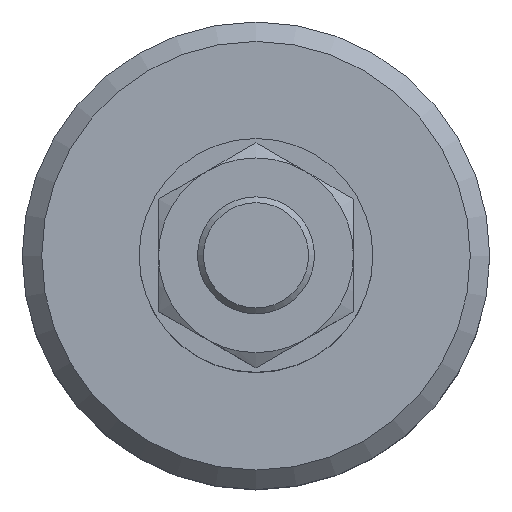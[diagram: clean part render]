
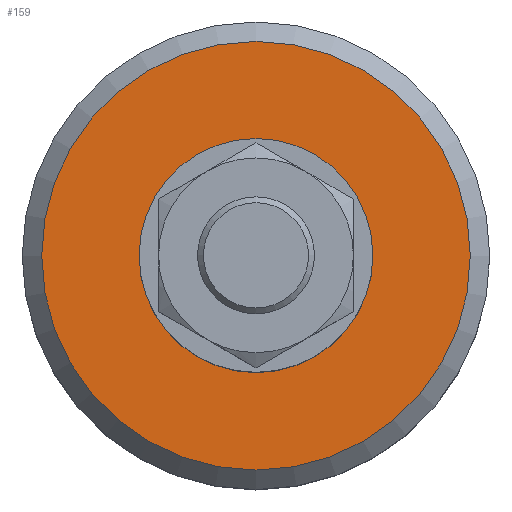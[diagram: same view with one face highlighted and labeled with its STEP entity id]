
A CAD part, top view. The second image highlights one B-rep face of the part: STEP entity #159.
In plain terms, the highlighted planar face has unit normal (0, 0, 1).
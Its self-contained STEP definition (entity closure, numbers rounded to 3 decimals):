
#128=CARTESIAN_POINT('',(0.,-11.0,7.25));
#129=VERTEX_POINT('',#128);
#130=CARTESIAN_POINT('',(0.0,0.0,7.25));
#131=DIRECTION('',(0.0,0.0,-1.0));
#132=DIRECTION('',(0.0,1.0,0.0));
#133=AXIS2_PLACEMENT_3D('',#130,#131,#132);
#134=CIRCLE('',#133,11.0);
#135=EDGE_CURVE('',#129,#129,#134,.T.);
#140=CARTESIAN_POINT('',(0.0,-3.,7.25));
#141=DIRECTION('',(0.0,0.0,1.0));
#142=DIRECTION('',(1.0,0.0,0.0));
#143=AXIS2_PLACEMENT_3D('',#140,#141,#142);
#144=PLANE('',#143);
#145=ORIENTED_EDGE('',*,*,#135,.F.);
#146=EDGE_LOOP('',(#145));
#147=FACE_OUTER_BOUND('',#146,.T.);
#148=CARTESIAN_POINT('',(0.0,-6.,7.25));
#149=VERTEX_POINT('',#148);
#150=CARTESIAN_POINT('',(0.0,0.0,7.25));
#151=DIRECTION('',(0.0,0.0,1.0));
#152=DIRECTION('',(0.0,-1.0,0.0));
#153=AXIS2_PLACEMENT_3D('',#150,#151,#152);
#154=CIRCLE('',#153,6.);
#155=EDGE_CURVE('',#149,#149,#154,.T.);
#156=ORIENTED_EDGE('',*,*,#155,.F.);
#157=EDGE_LOOP('',(#156));
#158=FACE_BOUND('',#157,.T.);
#159=ADVANCED_FACE('',(#147,#158),#144,.T.);
